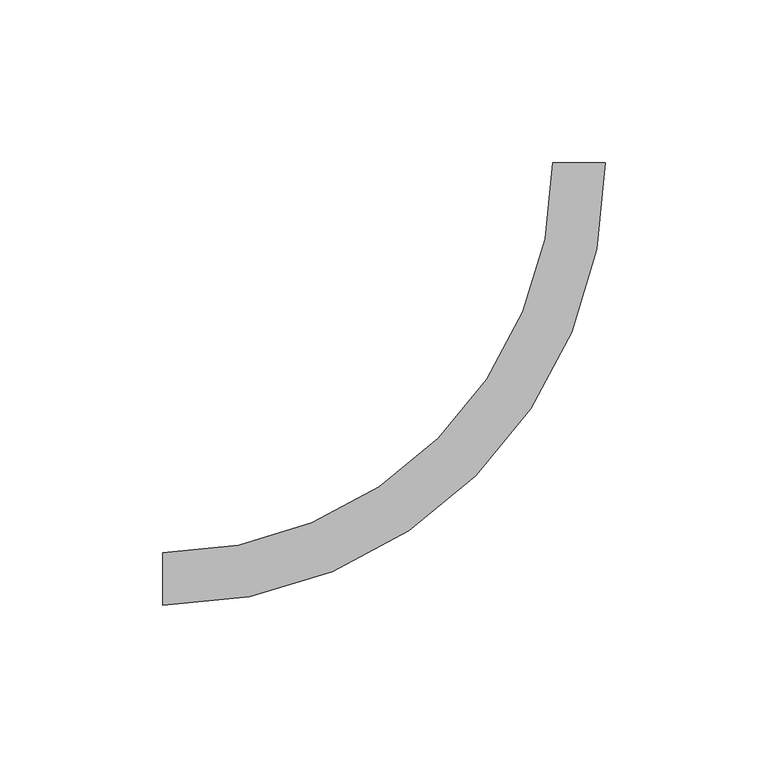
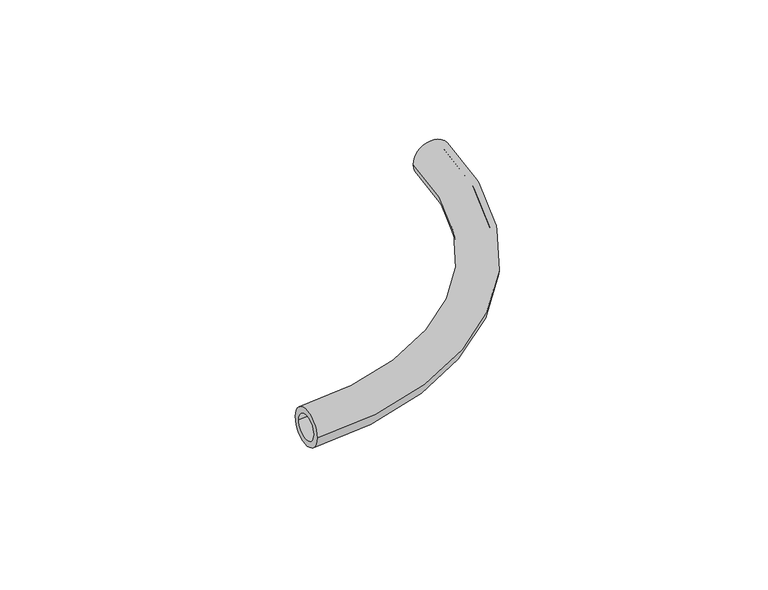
"""IFC4 building model written with IfcOpenShell, lengths in millimetres: pipe fitting geometry, FASTLOC_ML_bend : FSL ML AT."""

import ifcopenshell
import ifcopenshell.guid

model = None  # the IFC model being written
_history = None  # IfcOwnerHistory: only IFC2X3 demands one
_inside = {}  # id of a spatial element -> (the spatial element, [elements in it])
_under = {}  # id of a project, library or spatial element -> (it, [spatial elements below it])
_declared = {}  # id of a project -> (the project, [libraries it declares])
_typed = {}  # id of a type object -> (the type object, [elements of that type])
_made_of = {}  # id of a material, layer set ... -> (it, [elements and type objects made of it])


def new_model(schema):
    """Start an empty IFC model of exactly this schema.

    Asked for "IFC4X3", IfcOpenShell would pick the latest addendum, in which some entities
    have other attributes; the version numbers below select the first issue.
    IFC2X3 requires an IfcOwnerHistory on every rooted entity: one is made here for all.
    """
    global model, _history
    if schema == "IFC4X3":
        model = ifcopenshell.file(schema_version=(4, 3, 0, 0))
    else:
        model = ifcopenshell.file(schema=schema)
    _inside.clear()
    _under.clear()
    _declared.clear()
    _typed.clear()
    _made_of.clear()
    _history = None
    if model.schema == "IFC2X3":
        org = make("IfcOrganization", Name="unknown")
        user = make(
            "IfcPersonAndOrganization",
            ThePerson=make("IfcPerson", FamilyName="unknown"),
            TheOrganization=org,
        )
        app = make(
            "IfcApplication",
            ApplicationDeveloper=org,
            Version="unknown",
            ApplicationFullName="unknown",
            ApplicationIdentifier="unknown",
        )
        _history = make(
            "IfcOwnerHistory",
            OwningUser=user,
            OwningApplication=app,
            ChangeAction="ADDED",
            CreationDate=0,
        )
    return model


def make(cls, **values):
    """One entity of the class cls with the attributes given. An attribute that is None is left unset."""
    return model.create_entity(
        cls, **{name: value for name, value in values.items() if value is not None}
    )


def rooted(cls, **values):
    """An entity with a GlobalId (a new one), such as an element, a storey or a relation."""
    return make(cls, GlobalId=ifcopenshell.guid.new(), OwnerHistory=_history, **values)


def si_unit(unit_type, name, prefix=None):
    """IfcSIUnit, for example si_unit("LENGTHUNIT", "METRE", prefix="MILLI")."""
    return make("IfcSIUnit", UnitType=unit_type, Prefix=prefix, Name=name)


def assignment(units):
    """IfcUnitAssignment: the units of a project."""
    return None if units is None else make("IfcUnitAssignment", Units=units)


def point(xyz):
    """IfcCartesianPoint."""
    return None if xyz is None else make("IfcCartesianPoint", Coordinates=xyz)


def direction(xyz):
    """IfcDirection."""
    return None if xyz is None else make("IfcDirection", DirectionRatios=xyz)


def frame(location, z_axis=None, x_axis=None):
    """IfcAxis2Placement3D, a coordinate frame: its origin and axes. An axis left out is left unset."""
    return make(
        "IfcAxis2Placement3D",
        Location=point(location),
        Axis=direction(z_axis),
        RefDirection=direction(x_axis),
    )


def origin():
    """The frame at (0, 0, 0) with its axes left unset."""
    return frame((0.0, 0.0, 0.0))


def place(relative_to, where):
    """IfcLocalPlacement: puts the frame where relative to a parent placement (None: the world)."""
    return make(
        "IfcLocalPlacement", PlacementRelTo=relative_to, RelativePlacement=where
    )


def context(
    kind, dimensions, precision=None, world=None, true_north=None, identifier=None
):
    """IfcGeometricRepresentationContext, for example the 3D "Model" context."""
    return make(
        "IfcGeometricRepresentationContext",
        ContextIdentifier=identifier,
        ContextType=kind,
        CoordinateSpaceDimension=dimensions,
        Precision=precision,
        WorldCoordinateSystem=world,
        TrueNorth=true_north,
    )


def project(units=None, contexts=None):
    """IfcProject with its units and contexts."""
    return rooted(
        "IfcProject",
        Name="project",
        RepresentationContexts=contexts,
        UnitsInContext=assignment(units),
    )


def spatial(cls, under=None, at=None, **own):
    """A site, building, storey or space (cls), placed at a placement, below another one or the project."""
    s = rooted(cls, ObjectPlacement=at, **own)
    if under is not None:
        _under.setdefault(under.id(), (under, []))[1].append(s)
    return s


def circle_curve(where, radius):
    """IfcCircle in the frame where."""
    return make("IfcCircle", Position=where, Radius=radius)


def ellipse_curve(where, semi_axis1, semi_axis2):
    """IfcEllipse in the frame where."""
    return make(
        "IfcEllipse", Position=where, SemiAxis1=semi_axis1, SemiAxis2=semi_axis2
    )


def trimmed(basis, trim1, trim2, sense, master):
    """IfcTrimmedCurve: the piece of a basis curve between two trims."""
    return make(
        "IfcTrimmedCurve",
        BasisCurve=basis,
        Trim1=trim1,
        Trim2=trim2,
        SenseAgreement=sense,
        MasterRepresentation=master,
    )


def shape(context_of_items, identifier, shape_type, items):
    """IfcShapeRepresentation: the items that make up one representation, for example the "Body"."""
    return make(
        "IfcShapeRepresentation",
        ContextOfItems=context_of_items,
        RepresentationIdentifier=identifier,
        RepresentationType=shape_type,
        Items=items,
    )


def source(mapping_origin, context_of_items, identifier, shape_type, items):
    """IfcRepresentationMap: a shape defined once, which mapped items show again and again."""
    return make(
        "IfcRepresentationMap",
        MappingOrigin=mapping_origin,
        MappedRepresentation=shape(context_of_items, identifier, shape_type, items),
    )


def transform(
    local_origin,
    x_axis=None,
    y_axis=None,
    z_axis=None,
    scale=None,
    scale2=None,
    scale3=None,
    uniform=True,
):
    """IfcCartesianTransformationOperator3D, or its non-uniform kind. x_axis, y_axis, z_axis: its Axis1, 2, 3."""
    if uniform:
        return make(
            "IfcCartesianTransformationOperator3D",
            Axis1=direction(x_axis),
            Axis2=direction(y_axis),
            LocalOrigin=point(local_origin),
            Scale=scale,
            Axis3=direction(z_axis),
        )
    return make(
        "IfcCartesianTransformationOperator3DnonUniform",
        Axis1=direction(x_axis),
        Axis2=direction(y_axis),
        LocalOrigin=point(local_origin),
        Scale=scale,
        Axis3=direction(z_axis),
        Scale2=scale2,
        Scale3=scale3,
    )


def mapped(mapping_source, mapping_target):
    """IfcMappedItem: shows the shape of a source again, moved by a transform."""
    return make(
        "IfcMappedItem", MappingSource=mapping_source, MappingTarget=mapping_target
    )


def made_of(thing, what):
    """Note that an element or type object is made of a material, layer set ...; save() writes the relation."""
    if what is not None:
        _made_of.setdefault(what.id(), (what, []))[1].append(thing)
    return thing


def element(
    cls,
    number,
    at=None,
    inside=None,
    cuts=None,
    type_object=None,
    material=None,
    context=None,
    identifier="Body",
    shape_type=None,
    held_by="IfcProductDefinitionShape",
    body=None,
    shapes=None,
    **own,
):
    """One element of the class cls, such as IfcWall. Its Tag is "e" and its number.

    at: its placement. inside: the storey or other place that contains it. cuts: it is an
    opening in that element (IfcRelVoidsElement). A single representation is given by context,
    identifier, shape_type and body (its items); several are given by shapes. held_by: the class
    of the entity that holds the representations. save() writes the other relations.
    """
    e = rooted(cls, Tag="e%d" % number, ObjectPlacement=at, **own)
    if body is not None:
        shapes = [shape(context, identifier, shape_type, body)]
    if shapes is not None:
        e.Representation = make(held_by, Representations=shapes)
    if inside is not None:
        _inside.setdefault(inside.id(), (inside, []))[1].append(e)
    if cuts is not None:
        rooted(
            "IfcRelVoidsElement", RelatingBuildingElement=cuts, RelatedOpeningElement=e
        )
    if type_object is not None:
        _typed.setdefault(type_object.id(), (type_object, []))[1].append(e)
    return made_of(e, material)


def aggregate(whole, parts):
    """IfcRelAggregates: a whole, such as a stair, and the parts it consists of."""
    return rooted("IfcRelAggregates", RelatingObject=whole, RelatedObjects=parts)


def save(model, path):
    """Write the relations noted so far, then the file.

    IfcRelAggregates (storeys below a building ...), IfcRelContainedInSpatialStructure (elements
    in a storey), IfcRelDefinesByType, IfcRelAssociatesMaterial and IfcRelDeclares: one each for
    every whole, place, type object, material and project.
    """
    for whole, parts in _under.values():
        aggregate(whole, parts)
    for where, things in _inside.values():
        rooted(
            "IfcRelContainedInSpatialStructure",
            RelatedElements=things,
            RelatingStructure=where,
        )
    for kind, things in _typed.values():
        rooted("IfcRelDefinesByType", RelatedObjects=things, RelatingType=kind)
    for what, things in _made_of.values():
        rooted("IfcRelAssociatesMaterial", RelatedObjects=things, RelatingMaterial=what)
    for by, libraries in _declared.values():
        rooted("IfcRelDeclares", RelatingContext=by, RelatedDefinitions=libraries)
    model.write(path)


def plane_surface(at):
    """IfcPlane: the flat surface through the origin of the frame at, square to its z axis."""
    return make("IfcPlane", Position=at)


def revolved_surface(curve, axis_point, axis_direction):
    """IfcSurfaceOfRevolution: the curve turned about the line through axis_point along axis_direction."""
    return make(
        "IfcSurfaceOfRevolution",
        SweptCurve=make("IfcArbitraryOpenProfileDef", ProfileType="CURVE", Curve=curve),
        AxisPosition=make("IfcAxis1Placement", Location=point(axis_point), Axis=direction(axis_direction)),
    )


def advanced_brep(points, edges, surfaces, faces):
    """IfcAdvancedBrep: a solid bounded by faces that lie on surfaces and meet in shared edges.

    An edge is (start, end): straight between two places in points (the first is 0);
    or (start, end, curve); or (start, end, curve, False) where it runs against its curve.
    A face is (place in surfaces, loops), or (place, loops, False) where it looks against
    its surface's normal. A loop lists edges by number (the first is 1), with a minus sign
    where the edge is run from its end to its start. The first loop is the outer one.
    """
    corners = [point(p) for p in points]
    vertices = [make("IfcVertexPoint", VertexGeometry=c) for c in corners]
    made = []
    for start, end, *more in edges:
        made.append(
            make(
                "IfcEdgeCurve",
                EdgeStart=vertices[start],
                EdgeEnd=vertices[end],
                EdgeGeometry=more[0] if more else make("IfcPolyline", Points=[corners[start], corners[end]]),
                SameSense=more[1] if len(more) > 1 else True,
            )
        )
    hull = []
    for where, loops, *sense in faces:
        bounds = []
        for j, loop in enumerate(loops):
            ring = [make("IfcOrientedEdge", EdgeElement=made[abs(k) - 1], Orientation=k > 0) for k in loop]
            bounds.append(
                make(
                    "IfcFaceOuterBound" if j == 0 else "IfcFaceBound",
                    Bound=make("IfcEdgeLoop", EdgeList=ring),
                    Orientation=True,
                )
            )
        hull.append(make("IfcAdvancedFace", Bounds=bounds, FaceSurface=surfaces[where], SameSense=sense[0] if sense else True))
    return make("IfcAdvancedBrep", Outer=make("IfcClosedShell", CfsFaces=hull))


def pipe_fitting_a9a2f976(model_context):
    return source(origin(), model_context, "Body", "AdvancedBrep", [
        advanced_brep(
        [(-128.0, -8.1, 0.0), (-128.0, 8.1, 0.0), (-128.0, -5.5, 0.0), (-128.0, 5.5, 0.0), (8.1, 128.0, 0.0), (-8.1, 128.0, 0.0), (5.5, 128.0, 0.0), (-5.5, 128.0, 0.0)],
        [
            (0, 1, circle_curve(frame((-128.0, 0.0, 0.0), z_axis=(-1.0, 0.0, 0.0), x_axis=(0.0, 1.0, 0.0)), 8.1)),
            (1, 0, circle_curve(frame((-128.0, 0.0, 0.0), z_axis=(-1.0, 0.0, 0.0), x_axis=(0.0, 1.0, 0.0)), 8.1)),
            (2, 3, circle_curve(frame((-128.0, 0.0, 0.0), z_axis=(1.0, 0.0, 0.0), x_axis=(0.0, 1.0, 0.0)), 5.5)),
            (3, 2, circle_curve(frame((-128.0, 0.0, 0.0), z_axis=(1.0, 0.0, 0.0), x_axis=(0.0, 1.0, 0.0)), 5.5)),
            (4, 5, circle_curve(frame((0.0, 128.0, 0.0), z_axis=(0.0, 1.0, 0.0), x_axis=(-1.0, 0.0, 0.0)), 8.1)),
            (5, 4, circle_curve(frame((0.0, 128.0, 0.0), z_axis=(0.0, 1.0, 0.0), x_axis=(-1.0, 0.0, 0.0)), 8.1)),
            (6, 7, circle_curve(frame((0.0, 128.0, 0.0), z_axis=(0.0, -1.0, 0.0), x_axis=(-1.0, 0.0, 0.0)), 5.5)),
            (7, 6, circle_curve(frame((0.0, 128.0, 0.0), z_axis=(0.0, -1.0, 0.0), x_axis=(-1.0, 0.0, 0.0)), 5.5)),
            (7, 3, circle_curve(frame((-128.0, 128.0, 0.0), z_axis=(0.0, 0.0, -1.0), x_axis=(0.0, -1.0, 0.0)), 122.5)),
            (2, 6, circle_curve(frame((-128.0, 128.0, 0.0), z_axis=(0.0, 0.0, 1.0), x_axis=(0.0, -1.0, 0.0)), 133.5)),
            (5, 1, circle_curve(frame((-128.0, 128.0, 0.0), z_axis=(0.0, 0.0, -1.0), x_axis=(0.0, -1.0, 0.0)), 119.9)),
            (0, 4, circle_curve(frame((-128.0, 128.0, 0.0), z_axis=(0.0, 0.0, 1.0), x_axis=(0.0, -1.0, 0.0)), 136.1)),
        ],
        [
            plane_surface(frame((-128.0, 0.0, 0.0), z_axis=(-1.0, 0.0, 0.0), x_axis=(0.0, 0.0, 1.0))),
            plane_surface(frame((0.0, 128.0, 0.0), z_axis=(0.0, 1.0, 0.0), x_axis=(0.0, 0.0, 1.0))),
            revolved_surface(trimmed(ellipse_curve(frame((-128.0, 0.0, 0.0), z_axis=(1.0, 0.0, 0.0), x_axis=(0.0, 1.0, 0.0)), 5.5, 5.5), [point((-128.0, -5.5, 0.0))], [point((-128.0, 5.5, 0.0))], True, "CARTESIAN"), (-128.0, 128.0, 0.0), (0.0, 0.0, 1.0)),
            revolved_surface(trimmed(ellipse_curve(frame((-128.0, 0.0, 0.0), z_axis=(1.0, 0.0, 0.0), x_axis=(0.0, 1.0, 0.0)), 5.5, 5.5), [point((-128.0, 5.5, 0.0))], [point((-128.0, -5.5, 0.0))], True, "CARTESIAN"), (-128.0, 128.0, 0.0), (0.0, 0.0, 1.0)),
            revolved_surface(trimmed(ellipse_curve(frame((-128.0, 0.0, 0.0), z_axis=(-1.0, 0.0, 0.0), x_axis=(0.0, 1.0, 0.0)), 8.1, 8.1), [point((-128.0, -8.1, 0.0))], [point((-128.0, 8.1, 0.0))], True, "CARTESIAN"), (-128.0, 128.0, 0.0), (0.0, 0.0, 1.0)),
            revolved_surface(trimmed(ellipse_curve(frame((-128.0, 0.0, 0.0), z_axis=(-1.0, 0.0, 0.0), x_axis=(0.0, 1.0, 0.0)), 8.1, 8.1), [point((-128.0, 8.1, 0.0))], [point((-128.0, -8.1, 0.0))], True, "CARTESIAN"), (-128.0, 128.0, 0.0), (0.0, 0.0, 1.0)),
        ],
        [
            (0, [[1, 2], [3, 4]]),
            (1, [[5, 6], [7, 8]]),
            (2, [[9, -3, 10, -8]]),
            (3, [[-10, -4, -9, -7]]),
            (4, [[11, -1, 12, -6]]),
            (5, [[-12, -2, -11, -5]]),
        ],
    ),
    ])


if __name__ == "__main__":
    model = new_model("IFC4")
    model_context = context("Model", 3, world=origin())
    ifc_project = project(units=[si_unit("LENGTHUNIT", "METRE", prefix="MILLI")], contexts=[model_context])
    site = spatial("IfcSite", under=ifc_project)
    building = spatial("IfcBuilding", under=site)
    placement = place(None, origin())
    pipe_fitting_shape = pipe_fitting_a9a2f976(model_context)
    element("IfcPipeFitting", 1, ObjectType="FASTLOC_ML_bend : FSL ML AT", at=placement, inside=building, context=model_context, shape_type="MappedRepresentation", body=[
        mapped(pipe_fitting_shape, transform((0.0, 0.0, 0.0), x_axis=(1.0, 0.0, 0.0), y_axis=(0.0, 1.0, 0.0), z_axis=(0.0, 0.0, 1.0))),
    ])
    save(model, "model.ifc")
